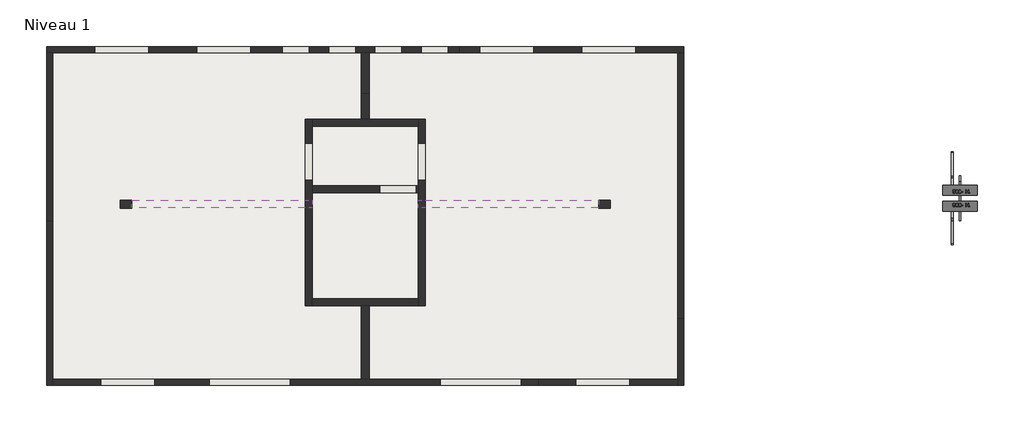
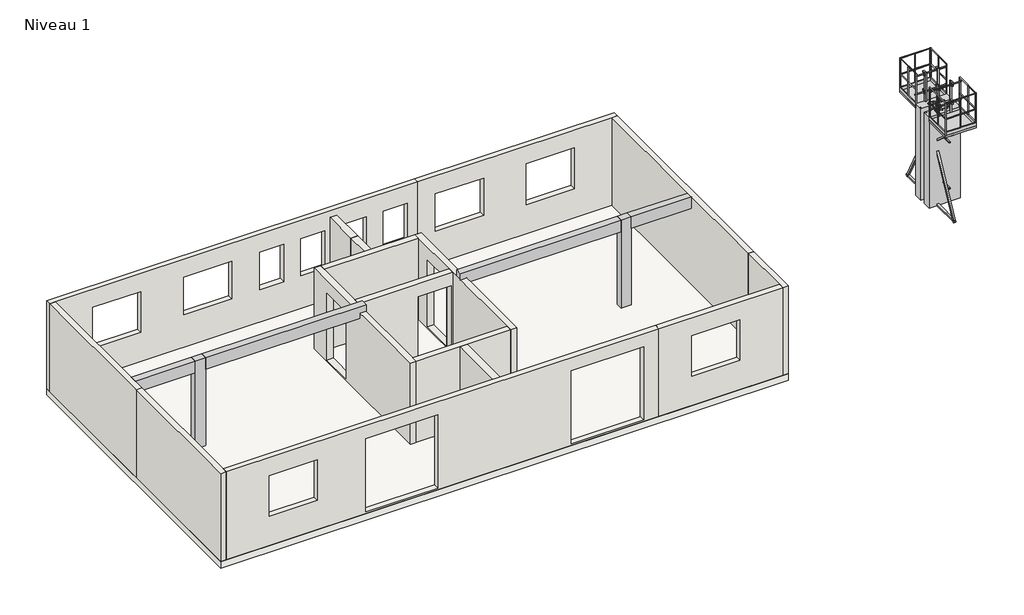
# One storey: 11 walls, 2 beams, 2 columns, 1 proxy, 1 slab.
"""IFC4 building model written with IfcOpenShell, lengths in millimetres."""

from ifc_helpers import new_model, si_unit, frame, origin, place, context, project, spatial, polyline, outline, extrude, faceted_brep, transform, mapped, element, save
from components import generic_models_879534f5

model = new_model("IFC4")

# Units and contexts
model_context = context("Model", 3, world=origin())
ifc_project = project(units=[si_unit("LENGTHUNIT", "METRE", prefix="MILLI")], contexts=[model_context])

# Site, building, storey
site = spatial("IfcSite", under=ifc_project)
building = spatial("IfcBuilding", under=site)
storey = spatial("IfcBuildingStorey", under=building, Name="Niveau 1", Elevation=2700.0)

# Beams
placement = place(None, origin())
element("IfcBeam", 1, ObjectType="Poutre rectangulaire - Béton : 200 x 350 mm", at=placement, inside=storey, context=model_context, shape_type="SweptSolid", body=[
    extrude(outline(polyline([(5400.0, -6152.3658436), (5050.0, -6152.3658436), (5050.0, -1662.3658436), (5200.0, -1662.3658436), (5200.0, -1482.3658436), (5400.0, -1482.3658436), (5400.0, -6152.3658436)])), frame((0.0, 514.4587007, 0.0), z_axis=(0.0, 1.0, 0.0), x_axis=(0.0, 0.0, 1.0)), (0.0, 0.0, 1.0), 200.0),
    extrude(outline(polyline([(-6452.3658436, 714.4587007), (-6452.3658436, 514.4587007), (-8202.3658436, 514.4587007), (-8202.3658436, 714.4587007), (-6452.3658436, 714.4587007)])), frame((0.0, 0.0, 5050.0), z_axis=(0.0, 0.0, 1.0), x_axis=(1.0, 0.0, 0.0)), (0.0, 0.0, 1.0), 350.0),
])
element("IfcBeam", 2, ObjectType="Poutre rectangulaire - Béton : 200 x 350 mm", at=placement, inside=storey, context=model_context, shape_type="SweptSolid", body=[
    extrude(outline(polyline([(7977.6341564, 714.4587007), (7977.6341564, 514.4587007), (6227.6341564, 514.4587007), (6227.6341564, 714.4587007), (7977.6341564, 714.4587007)])), frame((0.0, 0.0, 5050.0), z_axis=(0.0, 0.0, 1.0), x_axis=(1.0, 0.0, 0.0)), (0.0, 0.0, 1.0), 350.0),
    extrude(outline(polyline([(5200.0, 1437.6341564), (5050.0, 1437.6341564), (5050.0, 5927.6341564), (5400.0, 5927.6341564), (5400.0, 1257.6341564), (5200.0, 1257.6341564), (5200.0, 1437.6341564)])), frame((0.0, 514.4587007, 0.0), z_axis=(0.0, 1.0, 0.0), x_axis=(0.0, 0.0, 1.0)), (0.0, 0.0, 1.0), 200.0),
])

# Proxy
generic_models_shape = generic_models_879534f5(model_context)
element("IfcBuildingElementProxy", 3, Name="Hussor T10_Banche RNR : Hussor T10_Lg 900_Ht 2800", ObjectType="Hussor T10_Banche RNR : Hussor T10_Lg 900_Ht 2800", at=placement, inside=storey, context=model_context, shape_type="MappedRepresentation", body=[
    mapped(generic_models_shape, transform((14837.9458026, 850.6256757, 2700.0), x_axis=(1.0, 0.0, 0.0), y_axis=(0.0, 1.0, 0.0), z_axis=(0.0, 0.0, 1.0))),
])

# Columns
element("IfcColumn", 4, ObjectType="Poteau béton - Rectangulaire : 300 mm x 200 mm", at=placement, inside=storey, context=model_context, shape_type="SweptSolid", body=[
    extrude(outline(polyline([(-6152.3658436, 714.4587007), (-6152.3658436, 514.4587007), (-6452.3658436, 514.4587007), (-6452.3658436, 714.4587007), (-6152.3658436, 714.4587007)])), frame((0.0, 0.0, 2700.0), z_axis=(0.0, 0.0, 1.0), x_axis=(1.0, 0.0, 0.0)), (0.0, 0.0, 1.0), 2700.0),
])
element("IfcColumn", 5, ObjectType="Poteau béton - Rectangulaire : 300 mm x 200 mm", at=placement, inside=storey, context=model_context, shape_type="Brep", body=[
    faceted_brep([(6227.6341564, 714.4587007, 2700.0), (6227.6341564, 514.4587007, 2700.0), (5927.6341564, 514.4587007, 2700.0), (5927.6341564, 714.4587007, 2700.0), (6227.6341564, 714.4587007, 5400.0), (6227.6341564, 514.4587007, 5400.0), (6227.6341564, 514.4587007, 5050.0), (6227.6341564, 714.4587007, 5050.0), (5927.6341564, 514.4587007, 5400.0), (5927.6341564, 514.4587007, 5050.0), (5927.6341564, 714.4587007, 5400.0), (5927.6341564, 714.4587007, 5050.0)], [[[0, 1, 2, 3]], [[4, 5, 6, 1, 0, 7]], [[5, 8, 9, 2, 1, 6]], [[8, 10, 11, 3, 2, 9]], [[10, 4, 7, 0, 3, 11]], [[4, 10, 8, 5]]]),
])

# Slab
element("IfcSlab", 6, ObjectType="Dalle en béton - 200", at=placement, inside=storey, context=model_context, shape_type="SweptSolid", body=[
    extrude(outline(polyline([(8137.6341564, 4694.4587007), (8137.6341564, -4075.5412993), (-8362.3658436, -4075.5412993), (-8362.3658436, 4694.4587007), (8137.6341564, 4694.4587007)])), frame((0.0, 0.0, 2500.0), z_axis=(0.0, 0.0, 1.0), x_axis=(1.0, 0.0, 0.0)), (0.0, 0.0, 1.0), 200.0),
])

# Walls
element("IfcWall", 7, ObjectType="Générique - Ext. 160", at=placement, inside=storey, context=model_context, shape_type="Brep", body=[
    faceted_brep([(2340.5925754, 4534.4587007, 2700.0), (2340.5925754, 4534.4587007, 5400.0), (2340.5925754, 4694.4587007, 5400.0), (2340.5925754, 4694.4587007, 2700.0), (7977.6341564, 4534.4587007, 2700.0), (8137.6341564, 4534.4587007, 2700.0), (8137.6341564, 4534.4587007, 5400.0), (7977.6341564, 4534.4587007, 5400.0), (4247.6341564, 4534.4587007, 4850.0), (4247.6341564, 4534.4587007, 3700.0), (2847.6341564, 4534.4587007, 3700.0), (2847.6341564, 4534.4587007, 4850.0), (6892.6341564, 4534.4587007, 4850.0), (6892.6341564, 4534.4587007, 3600.0), (5492.6341564, 4534.4587007, 3600.0), (5492.6341564, 4534.4587007, 4850.0), (8137.6341564, 4694.4587007, 5400.0), (8137.6341564, 4694.4587007, 2700.0), (4247.6341564, 4694.4587007, 3700.0), (4247.6341564, 4694.4587007, 4850.0), (2847.6341564, 4694.4587007, 4850.0), (2847.6341564, 4694.4587007, 3700.0), (6892.6341564, 4694.4587007, 3600.0), (6892.6341564, 4694.4587007, 4850.0), (5492.6341564, 4694.4587007, 4850.0), (5492.6341564, 4694.4587007, 3600.0)], [[[0, 1, 2, 3]], [[4, 5, 6, 7, 1, 0], [8, 9, 10, 11], [12, 13, 14, 15]], [[16, 17, 3, 2], [18, 19, 20, 21], [22, 23, 24, 25]], [[5, 4, 0, 3, 17]], [[7, 6, 16, 2, 1]], [[6, 5, 17, 16]], [[13, 12, 23, 22]], [[14, 13, 22, 25]], [[15, 14, 25, 24]], [[12, 15, 24, 23]], [[9, 8, 19, 18]], [[10, 9, 18, 21]], [[11, 10, 21, 20]], [[8, 11, 20, 19]]]),
    faceted_brep([(2340.5925754, 4534.4587007, 5400.0), (2340.5925754, 4534.4587007, 2700.0), (2340.5925754, 4694.4587007, 2700.0), (2340.5925754, 4694.4587007, 5400.0), (-8362.3658436, 4534.4587007, 2700.0), (-8202.3658436, 4534.4587007, 2700.0), (-8202.3658436, 4534.4587007, 5400.0), (-8362.3658436, 4534.4587007, 5400.0), (-362.3658436, 4534.4587007, 4850.0), (-362.3658436, 4534.4587007, 3700.0), (-1062.3658436, 4534.4587007, 3700.0), (-1062.3658436, 4534.4587007, 4850.0), (2037.6341564, 4534.4587007, 4850.0), (2037.6341564, 4534.4587007, 3700.0), (1337.6341564, 4534.4587007, 3700.0), (1337.6341564, 4534.4587007, 4850.0), (-2262.3658436, 4534.4587007, 3700.0), (-2262.3658436, 4534.4587007, 4850.0), (-1562.3658436, 4534.4587007, 4850.0), (-1562.3658436, 4534.4587007, 3700.0), (-5717.3658436, 4534.4587007, 4850.0), (-5717.3658436, 4534.4587007, 3600.0), (-7117.3658436, 4534.4587007, 3600.0), (-7117.3658436, 4534.4587007, 4850.0), (837.6341564, 4534.4587007, 4850.0), (837.6341564, 4534.4587007, 3700.0), (137.6341564, 4534.4587007, 3700.0), (137.6341564, 4534.4587007, 4850.0), (-4472.3658436, 4534.4587007, 3700.0), (-4472.3658436, 4534.4587007, 4850.0), (-3072.3658436, 4534.4587007, 4850.0), (-3072.3658436, 4534.4587007, 3700.0), (-8362.3658436, 4694.4587007, 2700.0), (-8362.3658436, 4694.4587007, 5400.0), (-362.3658436, 4694.4587007, 3700.0), (-362.3658436, 4694.4587007, 4850.0), (-1062.3658436, 4694.4587007, 4850.0), (-1062.3658436, 4694.4587007, 3700.0), (837.6341564, 4694.4587007, 3700.0), (837.6341564, 4694.4587007, 4850.0), (137.6341564, 4694.4587007, 4850.0), (137.6341564, 4694.4587007, 3700.0), (-2262.3658436, 4694.4587007, 4850.0), (-2262.3658436, 4694.4587007, 3700.0), (-1562.3658436, 4694.4587007, 3700.0), (-1562.3658436, 4694.4587007, 4850.0), (-5717.3658436, 4694.4587007, 3600.0), (-5717.3658436, 4694.4587007, 4850.0), (-7117.3658436, 4694.4587007, 4850.0), (-7117.3658436, 4694.4587007, 3600.0), (2037.6341564, 4694.4587007, 3700.0), (2037.6341564, 4694.4587007, 4850.0), (1337.6341564, 4694.4587007, 4850.0), (1337.6341564, 4694.4587007, 3700.0), (-4472.3658436, 4694.4587007, 4850.0), (-4472.3658436, 4694.4587007, 3700.0), (-3072.3658436, 4694.4587007, 3700.0), (-3072.3658436, 4694.4587007, 4850.0)], [[[0, 1, 2, 3]], [[4, 5, 1, 0, 6, 7], [8, 9, 10, 11], [12, 13, 14, 15], [16, 17, 18, 19], [20, 21, 22, 23], [24, 25, 26, 27], [28, 29, 30, 31]], [[32, 33, 3, 2], [34, 35, 36, 37], [38, 39, 40, 41], [42, 43, 44, 45], [46, 47, 48, 49], [50, 51, 52, 53], [54, 55, 56, 57]], [[5, 4, 32, 2, 1]], [[7, 6, 0, 3, 33]], [[4, 7, 33, 32]], [[17, 16, 43, 42]], [[13, 12, 51, 50]], [[14, 13, 50, 53]], [[12, 15, 52, 51]], [[10, 9, 34, 37]], [[11, 10, 37, 36]], [[8, 11, 36, 35]], [[25, 24, 39, 38]], [[21, 20, 47, 46]], [[22, 21, 46, 49]], [[23, 22, 49, 48]], [[20, 23, 48, 47]], [[29, 28, 55, 54]], [[28, 31, 56, 55]], [[31, 30, 57, 56]], [[30, 29, 54, 57]], [[9, 8, 35, 34]], [[26, 25, 38, 41]], [[27, 26, 41, 40]], [[24, 27, 40, 39]], [[16, 19, 44, 43]], [[19, 18, 45, 44]], [[18, 17, 42, 45]], [[15, 14, 53, 52]]]),
])
element("IfcWall", 8, ObjectType="Générique - Ext. 160", at=placement, inside=storey, context=model_context, shape_type="SolidModel", body=[
    extrude(outline(polyline([(-8362.3658436, 4534.4587007), (-8202.3658436, 4534.4587007), (-8202.3658436, 184.5595333), (-8362.3658436, 184.5595333), (-8362.3658436, 4534.4587007)])), frame((0.0, 0.0, 2700.0), z_axis=(0.0, 0.0, 1.0), x_axis=(1.0, 0.0, 0.0)), (0.0, 0.0, 1.0), 2700.0),
    faceted_brep([(-8202.3658436, 184.5595333, 5400.0), (-8202.3658436, 184.5595333, 2700.0), (-8362.3658436, 184.5595333, 2700.0), (-8362.3658436, 184.5595333, 5400.0), (-8202.3658436, -4075.5412993, 2700.0), (-8202.3658436, -3915.5412993, 2700.0), (-8202.3658436, -3915.5412993, 5400.0), (-8202.3658436, -4075.5412993, 5400.0), (-8362.3658436, -4075.5412993, 2700.0), (-8362.3658436, -4075.5412993, 5400.0)], [[[0, 1, 2, 3]], [[4, 5, 1, 0, 6, 7]], [[8, 9, 3, 2]], [[5, 4, 8, 2, 1]], [[7, 6, 0, 3, 9]], [[4, 7, 9, 8]]]),
])
element("IfcWall", 9, ObjectType="Générique - Ext. 160", at=placement, inside=storey, context=model_context, shape_type="SweptSolid", body=[
    extrude(outline(polyline([(2700.0, 7977.6341564), (5400.0, 7977.6341564), (5400.0, 4375.0948808), (2700.0, 4375.0948808), (2700.0, 7977.6341564)]), holes=[polyline([(4850.0, 6732.6341564), (3600.0, 6732.6341564), (3600.0, 5332.6341564), (4850.0, 5332.6341564), (4850.0, 6732.6341564)])]), frame((0.0, -4075.5412993, 0.0), z_axis=(0.0, 1.0, 0.0), x_axis=(0.0, 0.0, 1.0)), (0.0, 0.0, 1.0), 160.0),
    extrude(outline(polyline([(5400.0, -8202.3658436), (2700.0, -8202.3658436), (2700.0, 4375.0948808), (5400.0, 4375.0948808), (5400.0, -8202.3658436)]), holes=[polyline([(2750.0, 1827.6341564), (5000.0, 1827.6341564), (5000.0, 3927.6341564), (2750.0, 3927.6341564), (2750.0, 1827.6341564)]), polyline([(2750.0, -4152.3658436), (5000.0, -4152.3658436), (5000.0, -2052.3658436), (2750.0, -2052.3658436), (2750.0, -4152.3658436)]), polyline([(4850.0, -5557.3658436), (3600.0, -5557.3658436), (3600.0, -6957.3658436), (4850.0, -6957.3658436), (4850.0, -5557.3658436)])]), frame((0.0, -4075.5412993, 0.0), z_axis=(0.0, 1.0, 0.0), x_axis=(0.0, 0.0, 1.0)), (0.0, 0.0, 1.0), 160.0),
])
element("IfcWall", 10, ObjectType="Générique - Ext. 180", at=placement, inside=storey, context=model_context, shape_type="SweptSolid", body=[
    extrude(outline(polyline([(2700.0, -1482.3658436), (2700.0, 1257.6341564), (5200.0, 1257.6341564), (5200.0, -1482.3658436), (2700.0, -1482.3658436)]), holes=[polyline([(4800.0, 1207.6341564), (2750.0, 1207.6341564), (2750.0, 257.6341564), (4800.0, 257.6341564), (4800.0, 1207.6341564)])]), frame((0.0, 904.4587007, 0.0), z_axis=(0.0, 1.0, 0.0), x_axis=(0.0, 0.0, 1.0)), (0.0, 0.0, 1.0), 180.0),
])
element("IfcWall", 11, ObjectType="Générique - Ext. 180", at=placement, inside=storey, context=model_context, shape_type="SweptSolid", body=[
    extrude(outline(polyline([(1257.6341564, 2634.4587007), (-1482.3658436, 2634.4587007), (-1482.3658436, 2814.4587007), (1257.6341564, 2814.4587007), (1257.6341564, 2634.4587007)])), frame((0.0, 0.0, 2700.0), z_axis=(0.0, 0.0, 1.0), x_axis=(1.0, 0.0, 0.0)), (0.0, 0.0, 1.0), 2500.0),
])
element("IfcWall", 12, ObjectType="Générique - Ext. 180", at=placement, inside=storey, context=model_context, shape_type="Brep", body=[
    faceted_brep([(-1662.3658436, 2814.4587007, 2700.0), (-1662.3658436, -2015.5412993, 2700.0), (-1662.3658436, -2015.5412993, 5200.0), (-1662.3658436, 2814.4587007, 5200.0), (-1662.3658436, 2184.4587007, 2750.0), (-1662.3658436, 2184.4587007, 4800.0), (-1662.3658436, 1234.4587007, 4800.0), (-1662.3658436, 1234.4587007, 2750.0), (-1482.3658436, -2015.5412993, 2700.0), (-1482.3658436, -1835.5412993, 2700.0), (-1482.3658436, 904.4587007, 2700.0), (-1482.3658436, 1084.4587007, 2700.0), (-1482.3658436, 2634.4587007, 2700.0), (-1482.3658436, 2814.4587007, 2700.0), (-1482.3658436, 2814.4587007, 5200.0), (-1482.3658436, 2634.4587007, 5200.0), (-1482.3658436, 1084.4587007, 5200.0), (-1482.3658436, 904.4587007, 5200.0), (-1482.3658436, -1835.5412993, 5200.0), (-1482.3658436, -2015.5412993, 5200.0), (-1482.3658436, 2184.4587007, 4800.0), (-1482.3658436, 2184.4587007, 2750.0), (-1482.3658436, 1234.4587007, 2750.0), (-1482.3658436, 1234.4587007, 4800.0)], [[[0, 1, 2, 3], [4, 5, 6, 7]], [[8, 9, 10, 11, 12, 13, 14, 15, 16, 17, 18, 19], [20, 21, 22, 23]], [[1, 0, 13, 12, 11, 10, 9, 8]], [[3, 2, 19, 18, 17, 16, 15, 14]], [[5, 4, 21, 20]], [[4, 7, 22, 21]], [[7, 6, 23, 22]], [[6, 5, 20, 23]], [[0, 3, 14, 13]], [[2, 1, 8, 19]]]),
])
element("IfcWall", 13, ObjectType="Générique - Ext. 180", at=placement, inside=storey, context=model_context, shape_type="SweptSolid", body=[
    extrude(outline(polyline([(-1482.3658436, -1835.5412993), (1257.6341564, -1835.5412993), (1257.6341564, -2015.5412993), (-1482.3658436, -2015.5412993), (-1482.3658436, -1835.5412993)])), frame((0.0, 0.0, 2700.0), z_axis=(0.0, 0.0, 1.0), x_axis=(1.0, 0.0, 0.0)), (0.0, 0.0, 1.0), 2500.0),
])
element("IfcWall", 14, ObjectType="Générique - Ext. 180", at=placement, inside=storey, context=model_context, shape_type="Brep", body=[
    faceted_brep([(1257.6341564, 2814.4587007, 2700.0), (1257.6341564, 2634.4587007, 2700.0), (1257.6341564, 1084.4587007, 2700.0), (1257.6341564, 904.4587007, 2700.0), (1257.6341564, -1835.5412993, 2700.0), (1257.6341564, -2015.5412993, 2700.0), (1257.6341564, -2015.5412993, 5200.0), (1257.6341564, -1835.5412993, 5200.0), (1257.6341564, 904.4587007, 5200.0), (1257.6341564, 1084.4587007, 5200.0), (1257.6341564, 2634.4587007, 5200.0), (1257.6341564, 2814.4587007, 5200.0), (1257.6341564, 1234.4587007, 4800.0), (1257.6341564, 1234.4587007, 2750.0), (1257.6341564, 2184.4587007, 2750.0), (1257.6341564, 2184.4587007, 4800.0), (1437.6341564, -2015.5412993, 2700.0), (1437.6341564, 2814.4587007, 2700.0), (1437.6341564, 2814.4587007, 5200.0), (1437.6341564, -2015.5412993, 5200.0), (1437.6341564, 1234.4587007, 2750.0), (1437.6341564, 1234.4587007, 4800.0), (1437.6341564, 2184.4587007, 4800.0), (1437.6341564, 2184.4587007, 2750.0)], [[[0, 1, 2, 3, 4, 5, 6, 7, 8, 9, 10, 11], [12, 13, 14, 15]], [[16, 17, 18, 19], [20, 21, 22, 23]], [[1, 0, 17, 16, 5, 4, 3, 2]], [[7, 6, 19, 18, 11, 10, 9, 8]], [[13, 12, 21, 20]], [[14, 13, 20, 23]], [[15, 14, 23, 22]], [[12, 15, 22, 21]], [[0, 11, 18, 17]], [[6, 5, 16, 19]]]),
])
element("IfcWall", 15, ObjectType="Générique - Ext. 200 mm", at=placement, inside=storey, context=model_context, shape_type="SweptSolid", body=[
    extrude(outline(polyline([(-212.3658436, 4534.4587007), (-12.3658436, 4534.4587007), (-12.3658436, 3481.6629294), (-212.3658436, 3481.6629294), (-212.3658436, 4534.4587007)])), frame((0.0, 0.0, 2700.0), z_axis=(0.0, 0.0, 1.0), x_axis=(1.0, 0.0, 0.0)), (0.0, 0.0, 1.0), 2500.0),
    extrude(outline(polyline([(-12.3658436, 2814.4587007), (-212.3658436, 2814.4587007), (-212.3658436, 3481.6629294), (-12.3658436, 3481.6629294), (-12.3658436, 2814.4587007)])), frame((0.0, 0.0, 2700.0), z_axis=(0.0, 0.0, 1.0), x_axis=(1.0, 0.0, 0.0)), (0.0, 0.0, 1.0), 2500.0),
])
element("IfcWall", 16, ObjectType="Générique - Ext. 200 mm", at=placement, inside=storey, context=model_context, shape_type="SweptSolid", body=[
    extrude(outline(polyline([(-212.3658436, -3915.5412993), (-212.3658436, -2015.5412993), (-12.3658436, -2015.5412993), (-12.3658436, -3915.5412993), (-212.3658436, -3915.5412993)])), frame((0.0, 0.0, 2700.0), z_axis=(0.0, 0.0, 1.0), x_axis=(1.0, 0.0, 0.0)), (0.0, 0.0, 1.0), 2500.0),
])
element("IfcWall", 17, ObjectType="Générique - Ext. 160", at=placement, inside=storey, context=model_context, shape_type="SolidModel", body=[
    extrude(outline(polyline([(7977.6341564, 4534.4587007), (8137.6341564, 4534.4587007), (8137.6341564, -2344.9764781), (7977.6341564, -2344.9764781), (7977.6341564, 4534.4587007)])), frame((0.0, 0.0, 2700.0), z_axis=(0.0, 0.0, 1.0), x_axis=(1.0, 0.0, 0.0)), (0.0, 0.0, 1.0), 2700.0),
    faceted_brep([(7977.6341564, -2344.9764781, 2700.0), (7977.6341564, -2344.9764781, 5400.0), (8137.6341564, -2344.9764781, 5400.0), (8137.6341564, -2344.9764781, 2700.0), (7977.6341564, -3915.5412993, 2700.0), (7977.6341564, -4075.5412993, 2700.0), (7977.6341564, -4075.5412993, 5400.0), (7977.6341564, -3915.5412993, 5400.0), (8137.6341564, -4075.5412993, 5400.0), (8137.6341564, -4075.5412993, 2700.0)], [[[0, 1, 2, 3]], [[4, 5, 6, 7, 1, 0]], [[8, 9, 3, 2]], [[5, 4, 0, 3, 9]], [[7, 6, 8, 2, 1]], [[6, 5, 9, 8]]]),
])

save(model, "model.ifc")
